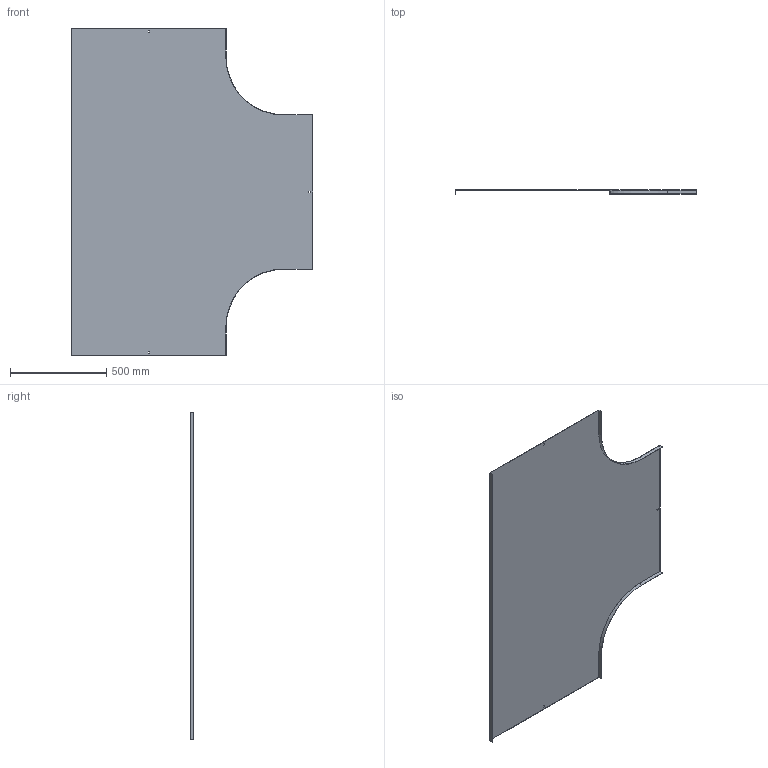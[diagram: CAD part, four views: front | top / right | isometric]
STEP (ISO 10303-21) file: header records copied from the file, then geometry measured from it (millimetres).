
FILE_DESCRIPTION (( 'STEP AP214' ), '1' );
FILE_NAME ('A2_15N3R800.step', '2025-02-21T12:06:49', ( '' ), ( '' ), 'SwSTEP 2.0', 'SolidWorks 2023', '' );
FILE_SCHEMA (( 'AUTOMOTIVE_DESIGN' ));
Length unit declared in the file: millimetre
Products named in the file (1): A2_15N3R800
Bounding box: 1251.5 x 20 x 1700 mm (x, y, z)
Volume: 2734882.9 mm3; surface area: 3655286.7 mm2
Topology: 1 solids, 1 shells, 34 faces, 96 edges, 64 vertices
Faces by surface type: plane 30, cylinder 4
Entity records: 1123 total; most frequent: CARTESIAN_POINT 195, ORIENTED_EDGE 192, DIRECTION 174, EDGE_CURVE 96, VECTOR 88, LINE 88, VERTEX_POINT 64, AXIS2_PLACEMENT_3D 43
